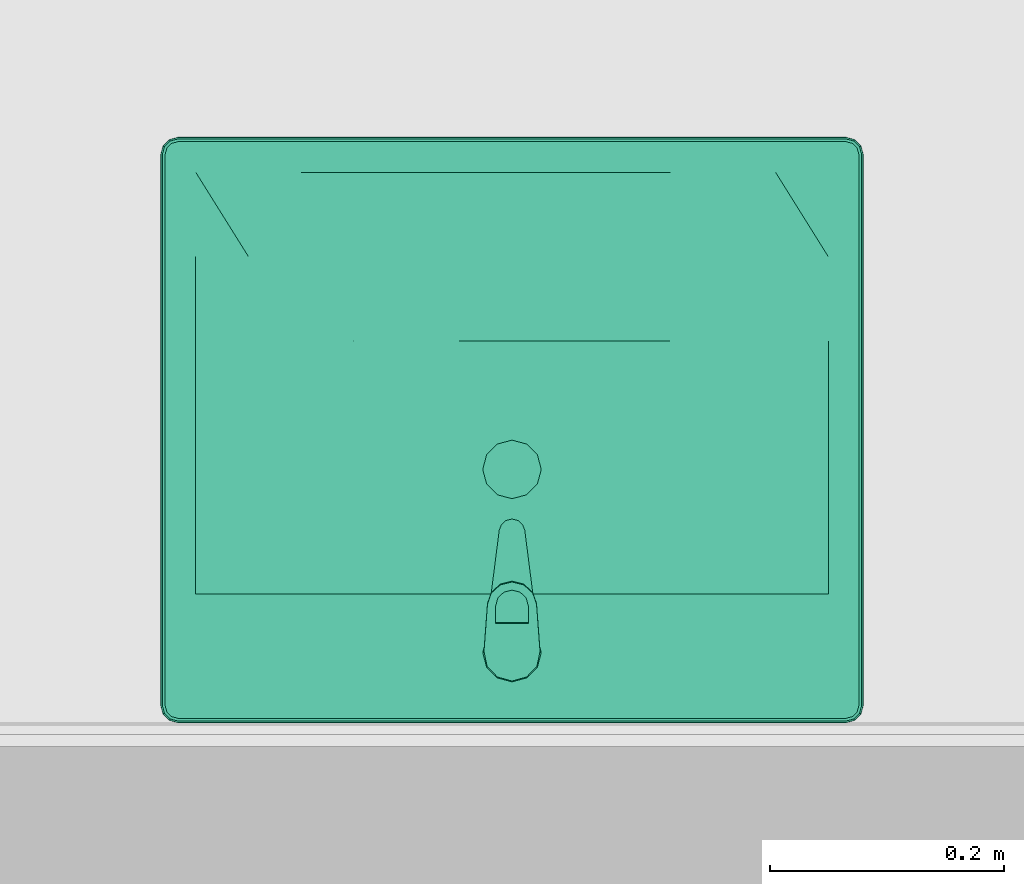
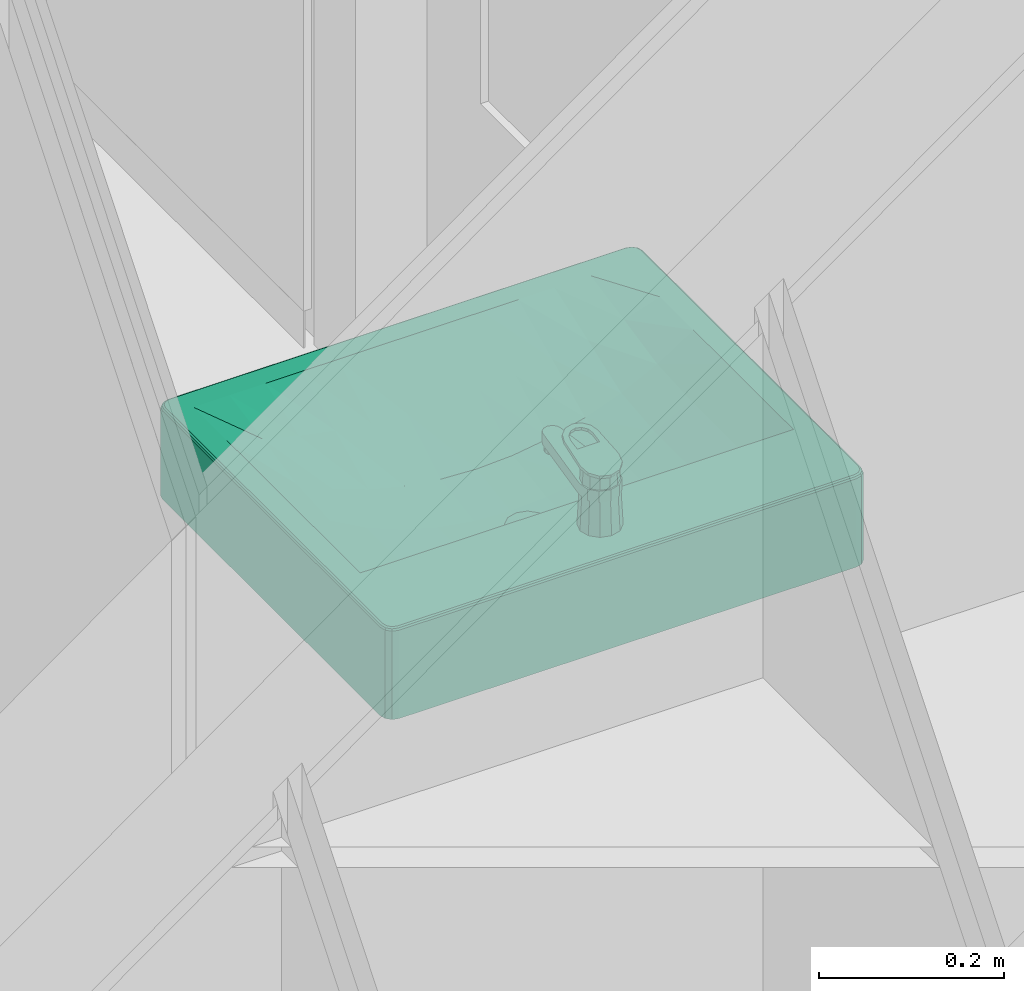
# One storey, part 309 of 347: 1 flow terminal.
"""IFC2X3 building model written with IfcOpenShell, lengths in millimetres."""

from ifc_helpers import new_model, entity, si_unit, converted_unit, derived_unit, money_unit, direction, frame, origin_with_axes, place, context, subcontext, project, spatial, open_shell, faceted_brep, surface_model, type_object, element, save


model = new_model("IFC2X3")

# Units and contexts
model_context = context("Model", 3, precision=0.01, world=origin_with_axes(), true_north=direction((0.0, 1.0)))
plan_context = context("Plan", 3, precision=0.01, world=origin_with_axes(), true_north=direction((0.0, 1.0)))
body_context = subcontext(model_context, "Body", "Model", "MODEL_VIEW")
ifc_project = project(units=[si_unit("LENGTHUNIT", "METRE", prefix="MILLI"), si_unit("AREAUNIT", "SQUARE_METRE"), si_unit("VOLUMEUNIT", "CUBIC_METRE"), converted_unit("PLANEANGLEUNIT", "DEGREE", entity("IfcPlaneAngleMeasure", 0.0174532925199), si_unit("PLANEANGLEUNIT", "RADIAN"), dimensions=[0, 0, 0, 0, 0, 0, 0]), money_unit("EUR"), converted_unit("TIMEUNIT", "Year", entity("IfcTimeMeasure", 31556926.0), si_unit("TIMEUNIT", "SECOND"), dimensions=[0, 0, 1, 0, 0, 0, 0]), si_unit("MASSUNIT", "GRAM", prefix="KILO"), si_unit("THERMODYNAMICTEMPERATUREUNIT", "DEGREE_CELSIUS"), si_unit("LUMINOUSINTENSITYUNIT", "LUMEN"), si_unit("ENERGYUNIT", "JOULE", prefix="MEGA"), derived_unit("THERMALCONDUCTANCEUNIT", [(si_unit("POWERUNIT", "WATT"), 1), (si_unit("LENGTHUNIT", "METRE"), -1), (si_unit("THERMODYNAMICTEMPERATUREUNIT", "KELVIN"), -1)]), derived_unit("SPECIFICHEATCAPACITYUNIT", [(si_unit("ENERGYUNIT", "JOULE"), 1), (si_unit("MASSUNIT", "GRAM", prefix="KILO"), -1), (si_unit("THERMODYNAMICTEMPERATUREUNIT", "KELVIN"), -1)]), derived_unit("MASSDENSITYUNIT", [(si_unit("MASSUNIT", "GRAM", prefix="KILO"), 1), (si_unit("VOLUMEUNIT", "CUBIC_METRE"), -1)])], contexts=[model_context, plan_context])

# Site, building, storey
site_placement = place(None, origin_with_axes())
site = spatial("IfcSite", under=ifc_project, at=site_placement, Name="Site", CompositionType="ELEMENT")
building_placement = place(site_placement, origin_with_axes())
building = spatial("IfcBuilding", under=site, at=building_placement, Name="Naam gebouw", CompositionType="ELEMENT")
storey_placement = place(building_placement, origin_with_axes())
storey = spatial("IfcBuildingStorey", under=building, at=storey_placement, Name="begane grond", CompositionType="ELEMENT", Elevation=0.0)

# Flow terminal
sanitary_terminal_type = type_object("IfcSanitaryTerminalType", Name="Wasbak 25", PredefinedType="WASHHANDBASIN")
flow_terminal_placement = place(storey_placement, frame((6825.0, 12207.5000075, 0.0), z_axis=(0.0, 0.0, 1.0), x_axis=(-1.0, 0.0, 0.0)))
element("IfcFlowTerminal", 1, at=flow_terminal_placement, inside=storey, type_object=sanitary_terminal_type, Name="52_Sanitair wastafel", context=body_context, shape_type="SurfaceModel", body=[
    faceted_brep([(-285.0, -500.0, 780.0), (-292.5, -497.990381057, 780.0), (-297.990381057, -492.5, 780.0), (-300.0, -485.0, 780.0), (-300.0, -15.0, 780.0), (-297.990381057, -7.5, 780.0), (-292.5, -2.00961894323, 780.0), (-285.0, 0.0, 780.0), (285.0, 0.0, 780.0), (292.5, -2.00961894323, 780.0), (297.990381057, -7.5, 780.0), (300.0, -15.0, 780.0), (300.0, -485.0, 780.0), (297.990381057, -492.5, 780.0), (292.5, -497.990381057, 780.0), (285.0, -500.0, 780.0), (270.0, -470.0, 780.0), (270.0, -110.0, 780.0), (-270.0, -110.0, 780.0), (-270.0, -470.0, 780.0), (-284.999999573, -500.00000039, 895.0), (-292.499999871, -497.990381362, 895.0), (-297.990381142, -492.500000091, 895.0), (-300.000000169, -484.999999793, 895.0), (-300.000000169, -15.0000000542, 895.0), (-297.990381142, -7.49999975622, 895.0), (-292.499999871, -2.00961848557, 895.0), (-284.999999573, -3.89516308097e-07, 895.0), (284.999999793, -3.89516308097e-07, 895.0), (292.500000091, -2.00961848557, 895.0), (297.990381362, -7.49999975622, 895.0), (300.00000039, -15.0000000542, 895.0), (300.00000039, -484.999999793, 895.0), (297.990381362, -492.500000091, 895.0), (292.500000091, -497.990381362, 895.0), (284.999999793, -500.00000039, 895.0), (270.0, -110.0, 899.999999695), (270.0, -470.0, 899.999999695), (-270.0, -110.0, 899.999999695), (-270.0, -470.0, 899.999999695), (-284.977569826, -499.829629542, 896.294095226), (-292.411809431, -497.837631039, 896.294095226), (-297.837630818, -492.411809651, 896.294095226), (-299.829629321, -484.977570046, 896.294095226), (-299.829629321, -15.0224298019, 896.294095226), (-297.837630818, -7.58819019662, 896.294095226), (-292.411809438, -2.16236881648, 896.294095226), (-284.977569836, -0.170371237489, 896.294095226), (284.977570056, -0.170371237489, 896.294095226), (292.411809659, -2.16236881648, 896.294095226), (297.837631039, -7.58819019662, 896.294095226), (299.829629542, -15.0224298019, 896.294095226), (299.829629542, -484.977570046, 896.294095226), (297.837631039, -492.411809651, 896.294095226), (292.411809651, -497.837631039, 896.294095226), (284.977570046, -499.829629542, 896.294095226), (284.341737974, -4.99999753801, 899.999999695), (-284.341737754, -4.99999753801, 899.999999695), (-289.911811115, -6.49249350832, 899.999999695), (-293.507506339, -10.0881887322, 899.999999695), (-295.000003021, -15.6582621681, 899.999999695), (-295.000003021, -484.34173768, 899.999999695), (-293.507506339, -489.911811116, 899.999999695), (-289.911810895, -493.507506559, 899.999999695), (-284.341737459, -495.000003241, 899.999999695), (284.34173768, -495.000003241, 899.999999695), (289.911811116, -493.507506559, 899.999999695), (293.507506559, -489.911811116, 899.999999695), (295.000003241, -484.34173768, 899.999999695), (295.000003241, -15.6582621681, 899.999999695), (293.507506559, -10.0881887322, 899.999999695), (289.911811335, -6.49249350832, 899.999999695), (-284.807198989, -498.535534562, 898.535533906), (-291.741936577, -496.677377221, 898.535533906), (-296.677377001, -491.741936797, 898.535533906), (-298.535534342, -484.807199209, 898.535533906), (-298.535534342, -15.1928006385, 898.535533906), (-296.677377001, -8.25806305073, 898.535533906), (-291.741936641, -3.32262269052, 898.535533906), (-284.807199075, -1.46446621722, 898.535533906), (284.807199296, -1.46446621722, 898.535533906), (291.741936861, -3.32262269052, 898.535533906), (296.677377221, -8.25806305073, 898.535533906), (298.535534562, -15.1928006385, 898.535533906), (298.535534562, -484.807199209, 898.535533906), (296.677377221, -491.741936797, 898.535533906), (291.741936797, -496.677377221, 898.535533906), (284.807199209, -498.535534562, 898.535533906), (284.512108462, -3.70590462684, 899.829629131), (-284.512108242, -3.70590462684, 899.829629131), (-290.581682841, -5.33224148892, 899.829629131), (-294.667758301, -9.41831694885, 899.829629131), (-296.294095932, -15.4878916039, 899.829629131), (-296.294095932, -484.512108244, 899.829629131), (-294.667758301, -490.581682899, 899.829629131), (-290.581682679, -494.667758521, 899.829629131), (-284.512108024, -496.294096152, 899.829629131), (284.512108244, -496.294096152, 899.829629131), (290.581682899, -494.667758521, 899.829629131), (294.667758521, -490.581682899, 899.829629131), (296.294096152, -484.512108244, 899.829629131), (296.294096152, -15.4878916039, 899.829629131), (294.667758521, -9.41831694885, 899.829629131), (290.581683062, -5.33224148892, 899.829629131)], [[[0, 1, 2, 3, 4, 5, 6, 7, 8, 9, 10, 11, 12, 13, 14, 15], [16, 17, 18, 19]], [[1, 0, 20, 21]], [[2, 1, 21, 22]], [[3, 2, 22, 23]], [[4, 3, 23, 24]], [[5, 4, 24, 25]], [[6, 5, 25, 26]], [[7, 6, 26, 27]], [[8, 7, 27, 28]], [[9, 8, 28, 29]], [[10, 9, 29, 30]], [[11, 10, 30, 31]], [[12, 11, 31, 32]], [[13, 12, 32, 33]], [[14, 13, 33, 34]], [[15, 14, 34, 35]], [[0, 15, 35, 20]], [[36, 17, 16, 37]], [[38, 18, 17, 36]], [[39, 19, 18, 38]], [[37, 16, 19, 39]], [[21, 20, 40, 41]], [[22, 21, 41, 42]], [[23, 22, 42, 43]], [[24, 23, 43, 44]], [[25, 24, 44, 45]], [[26, 25, 45, 46]], [[27, 26, 46, 47]], [[28, 27, 47, 48]], [[29, 28, 48, 49]], [[30, 29, 49, 50]], [[31, 30, 50, 51]], [[32, 31, 51, 52]], [[33, 32, 52, 53]], [[34, 33, 53, 54]], [[35, 34, 54, 55]], [[20, 35, 55, 40]], [[56, 57, 58, 59, 60, 61, 62, 63, 64, 65, 66, 67, 68, 69, 70, 71], [37, 39, 38, 36]], [[41, 40, 72, 73]], [[42, 41, 73, 74]], [[43, 42, 74, 75]], [[44, 43, 75, 76]], [[45, 44, 76, 77]], [[46, 45, 77, 78]], [[47, 46, 78, 79]], [[48, 47, 79, 80]], [[49, 48, 80, 81]], [[50, 49, 81, 82]], [[51, 50, 82, 83]], [[52, 51, 83, 84]], [[53, 52, 84, 85]], [[54, 53, 85, 86]], [[55, 54, 86, 87]], [[40, 55, 87, 72]], [[88, 89, 57, 56]], [[89, 90, 58, 57]], [[90, 91, 59, 58]], [[91, 92, 60, 59]], [[92, 93, 61, 60]], [[93, 94, 62, 61]], [[94, 95, 63, 62]], [[95, 96, 64, 63]], [[96, 97, 65, 64]], [[97, 98, 66, 65]], [[98, 99, 67, 66]], [[99, 100, 68, 67]], [[100, 101, 69, 68]], [[101, 102, 70, 69]], [[102, 103, 71, 70]], [[103, 88, 56, 71]], [[73, 72, 96, 95]], [[74, 73, 95, 94]], [[75, 74, 94, 93]], [[76, 75, 93, 92]], [[77, 76, 92, 91]], [[78, 77, 91, 90]], [[79, 78, 90, 89]], [[80, 79, 89, 88]], [[81, 80, 88, 103]], [[82, 81, 103, 102]], [[83, 82, 102, 101]], [[84, 83, 101, 100]], [[85, 84, 100, 99]], [[86, 85, 99, 98]], [[87, 86, 98, 97]], [[72, 87, 97, 96]]]),
    faceted_brep([(270.0, -470.0, 780.0), (-270.0, -470.0, 780.0), (-270.0, -110.0, 780.0), (270.0, -110.0, 780.0), (-12.5, -238.003635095, 780.0), (0.0, -241.353, 780.0), (12.5, -238.003635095, 780.0), (21.6506350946, -228.853, 780.0), (25.0, -216.353, 780.0), (21.6506350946, -203.853, 780.0), (12.5, -194.702364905, 780.0), (0.0, -191.353, 780.0), (-12.5, -194.702364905, 780.0), (-21.6506350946, -203.853, 780.0), (-25.0, -216.353, 780.0), (-21.6506350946, -228.853, 780.0), (135.0, -470.0, 900.0), (90.0, -470.0, 900.0), (45.0, -470.0, 900.0), (0.0, -470.0, 900.0), (-45.0, -470.0, 900.0), (-90.0, -470.0, 900.0), (-135.0, -470.0, 900.0), (-180.0, -470.0, 900.0), (-225.0, -470.0, 900.0), (-270.0, -470.0, 900.0), (270.0, -470.0, 900.0), (225.0, -470.0, 900.0), (180.0, -470.0, 900.0), (-270.0, -254.0, 900.0), (-270.0, -182.0, 900.0), (-270.0, -110.0, 900.0), (-270.0, -398.0, 900.0), (-270.0, -326.0, 900.0), (-135.0, -110.0, 822.600459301), (-90.0, -110.0, 809.888766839), (-45.0, -110.0, 802.449942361), (0.0, -110.0, 800.0), (45.0, -110.0, 802.449942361), (90.0, -110.0, 809.888766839), (135.0, -110.0, 822.600459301), (180.0, -110.0, 841.123179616), (225.0, -110.0, 866.383281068), (270.0, -110.0, 900.0), (-225.0, -110.0, 866.383281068), (-180.0, -110.0, 841.123179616), (270.0, -326.0, 900.0), (270.0, -398.0, 900.0), (270.0, -182.0, 900.0), (270.0, -254.0, 900.0), (0.0, -241.353, 800.0), (-12.5, -238.003635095, 800.680539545), (12.5, -238.003635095, 800.680539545), (21.6506350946, -228.853, 801.178729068), (25.0, -216.353, 801.36107909), (21.6506350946, -203.853, 801.178729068), (12.5, -194.702364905, 800.680539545), (0.0, -191.353, 800.0), (-12.5, -194.702364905, 800.680539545), (-21.6506350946, -203.853, 801.178729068), (-25.0, -216.353, 801.36107909), (-21.6506350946, -228.853, 801.178729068), (90.0, -398.0, 859.698966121), (45.0, -398.0, 856.021333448), (0.0, -398.0, 854.799081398), (-45.0, -398.0, 856.021333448), (-90.0, -398.0, 859.698966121), (-135.0, -398.0, 865.865098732), (-180.0, -398.0, 874.576615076), (-225.0, -398.0, 885.916884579), (225.0, -398.0, 885.916884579), (180.0, -398.0, 874.576615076), (135.0, -398.0, 865.865098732), (-225.0, -254.0, 866.383281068), (-225.0, -182.0, 866.383281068), (-225.0, -326.0, 870.843379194), (-135.0, -182.0, 822.600459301), (-90.0, -182.0, 809.888766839), (-45.0, -182.0, 802.449942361), (0.0, -182.0, 800.0), (45.0, -182.0, 802.449942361), (90.0, -182.0, 809.888766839), (135.0, -182.0, 822.600459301), (180.0, -182.0, 841.123179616), (225.0, -182.0, 866.383281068), (-180.0, -182.0, 841.123179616), (225.0, -326.0, 870.843379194), (225.0, -254.0, 866.383281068), (-45.0, -254.0, 802.449942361), (0.0, -254.0, 800.0), (45.0, -254.0, 802.449942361), (-180.0, -254.0, 841.123179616), (-135.0, -254.0, 822.600459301), (-90.0, -254.0, 809.888766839), (90.0, -254.0, 809.888766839), (135.0, -254.0, 822.600459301), (180.0, -254.0, 841.123179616), (0.0, -326.0, 811.460400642), (45.0, -326.0, 813.686473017), (90.0, -326.0, 820.431203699), (-45.0, -326.0, 813.686473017), (-90.0, -326.0, 820.431203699), (-135.0, -326.0, 831.904485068), (-180.0, -326.0, 848.49465434), (180.0, -326.0, 848.49465434), (135.0, -326.0, 831.904485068)], [[[0, 1, 2, 3], [4, 5, 6, 7, 8, 9, 10, 11, 12, 13, 14, 15]], [[16, 17, 18, 19, 20, 21, 22, 23, 24, 25, 1, 0, 26, 27, 28]], [[29, 30, 31, 2, 1, 25, 32, 33]], [[34, 35, 36, 37, 38, 39, 40, 41, 42, 43, 3, 2, 31, 44, 45]], [[46, 47, 26, 0, 3, 43, 48, 49]], [[50, 5, 4, 51]], [[52, 6, 5, 50]], [[53, 7, 6, 52]], [[54, 8, 7, 53]], [[55, 9, 8, 54]], [[56, 10, 9, 55]], [[57, 11, 10, 56]], [[58, 12, 11, 57]], [[59, 13, 12, 58]], [[60, 14, 13, 59]], [[61, 15, 14, 60]], [[51, 4, 15, 61]], [[16, 62, 17]], [[17, 63, 18]], [[18, 64, 19]], [[19, 65, 20]], [[20, 66, 21]], [[21, 67, 22]], [[22, 68, 23]], [[23, 69, 24]], [[24, 32, 25]], [[26, 70, 27]], [[27, 71, 28]], [[28, 72, 16]], [[29, 73, 74, 30]], [[30, 74, 44, 31]], [[69, 33, 32]], [[75, 29, 33]], [[76, 77, 35, 34]], [[77, 78, 36, 35]], [[78, 79, 37, 36]], [[79, 80, 38, 37]], [[80, 81, 39, 38]], [[81, 82, 40, 39]], [[82, 83, 41, 40]], [[83, 84, 42, 41]], [[84, 48, 43, 42]], [[74, 85, 45, 44]], [[85, 76, 34, 45]], [[47, 46, 86]], [[26, 47, 70]], [[87, 49, 48, 84]], [[46, 49, 87]], [[58, 57, 79, 78, 88, 89, 50, 51, 61, 60, 59]], [[56, 55, 54, 53, 52, 50, 89, 90, 80, 79, 57]], [[16, 72, 62]], [[17, 62, 63]], [[18, 63, 64]], [[19, 64, 65]], [[20, 65, 66]], [[21, 66, 67]], [[22, 67, 68]], [[23, 68, 69]], [[24, 69, 32]], [[27, 70, 71]], [[28, 71, 72]], [[75, 73, 29]], [[73, 91, 85, 74]], [[69, 75, 33]], [[92, 93, 77, 76]], [[93, 88, 78, 77]], [[90, 94, 81, 80]], [[94, 95, 82, 81]], [[95, 96, 83, 82]], [[96, 87, 84, 83]], [[91, 92, 76, 85]], [[46, 87, 86]], [[47, 86, 70]], [[97, 89, 88]], [[98, 90, 89]], [[72, 99, 62]], [[62, 98, 63]], [[63, 97, 64]], [[64, 100, 65]], [[65, 101, 66]], [[66, 102, 67]], [[67, 103, 68]], [[68, 75, 69]], [[70, 104, 71]], [[71, 105, 72]], [[103, 73, 75]], [[103, 91, 73]], [[101, 93, 92]], [[100, 88, 93]], [[99, 94, 90]], [[105, 95, 94]], [[104, 96, 95]], [[86, 87, 96]], [[102, 92, 91]], [[70, 86, 104]], [[98, 89, 97]], [[97, 88, 100]], [[99, 90, 98]], [[72, 105, 99]], [[62, 99, 98]], [[63, 98, 97]], [[64, 97, 100]], [[65, 100, 101]], [[66, 101, 102]], [[67, 102, 103]], [[68, 103, 75]], [[71, 104, 105]], [[102, 91, 103]], [[100, 93, 101]], [[101, 92, 102]], [[105, 94, 99]], [[104, 95, 105]], [[86, 96, 104]]]),
    faceted_brep([(-21.6506350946, -228.853, 800.0), (-25.0, -216.353, 800.0), (-21.6506350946, -203.853, 800.0), (-12.5, -194.702364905, 800.0), (0.0, -191.353, 800.0), (12.5, -194.702364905, 800.0), (21.6506350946, -203.853, 800.0), (25.0, -216.353, 800.0), (21.6506350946, -228.853, 800.0), (12.5, -238.003635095, 800.0), (0.0, -241.353, 800.0), (-12.5, -238.003635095, 800.0), (-21.6506350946, -228.853, 805.0), (-25.0, -216.353, 805.0), (-21.6506350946, -203.853, 805.0), (-12.5, -194.702364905, 805.0), (0.0, -191.353, 805.0), (12.5, -194.702364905, 805.0), (21.6506350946, -203.853, 805.0), (25.0, -216.353, 805.0), (21.6506350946, -228.853, 805.0), (12.5, -238.003635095, 805.0), (0.0, -241.353, 805.0), (-12.5, -238.003635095, 805.0)], [[[0, 1, 2, 3, 4, 5, 6, 7, 8, 9, 10, 11]], [[0, 12, 13, 1]], [[1, 13, 14, 2]], [[2, 14, 15, 3]], [[3, 15, 16, 4]], [[4, 16, 17, 5]], [[5, 17, 18, 6]], [[6, 18, 19, 7]], [[7, 19, 20, 8]], [[8, 20, 21, 9]], [[9, 21, 22, 10]], [[10, 22, 23, 11]], [[11, 23, 12, 0]], [[12, 23, 22, 21, 20, 19, 18, 17, 16, 15, 14, 13]]]),
    surface_model("IfcShellBasedSurfaceModel", [(0.0, -216.353, 807.0), (6.31095278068, -205.42210914, 806.49757372), (0.0, -203.731094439, 806.49757372), (10.9308908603, -210.042047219, 806.49757372), (12.5, -194.702364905, 805.0), (0.0, -191.353, 805.0), (-6.31095278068, -205.42210914, 806.49757372), (12.6219055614, -216.353, 806.49757372), (21.6506350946, -203.853, 805.0), (-12.5, -194.702364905, 805.0), (-10.9308908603, -210.042047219, 806.49757372), (10.9308908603, -222.663952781, 806.49757372), (25.0, -216.353, 805.0), (-21.6506350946, -203.853, 805.0), (-12.6219055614, -216.353, 806.49757372), (6.31095278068, -227.28389086, 806.49757372), (21.6506350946, -228.853, 805.0), (-25.0, -216.353, 805.0), (-10.9308908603, -222.663952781, 806.49757372), (0.0, -228.974905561, 806.49757372), (12.5, -238.003635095, 805.0), (-21.6506350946, -228.853, 805.0), (-6.31095278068, -227.28389086, 806.49757372), (0.0, -241.353, 805.0), (-12.5, -238.003635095, 805.0)], [open_shell([[[0, 1, 2]], [[0, 3, 1]], [[1, 4, 5, 2]], [[0, 2, 6]], [[0, 7, 3]], [[3, 8, 4, 1]], [[2, 5, 9, 6]], [[0, 6, 10]], [[0, 11, 7]], [[7, 12, 8, 3]], [[6, 9, 13, 10]], [[0, 10, 14]], [[0, 15, 11]], [[11, 16, 12, 7]], [[10, 13, 17, 14]], [[0, 14, 18]], [[0, 19, 15]], [[15, 20, 16, 11]], [[14, 17, 21, 18]], [[0, 18, 22]], [[0, 22, 19]], [[19, 23, 20, 15]], [[18, 21, 24, 22]], [[22, 24, 23, 19]]])]),
    faceted_brep([(-12.5, -38.3493649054, 900.0), (-10.5873227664, -41.6622190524, 976.507089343), (0.0, -38.7980769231, 975.961538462), (0.0, -35.0, 900.0), (-21.6506350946, -47.5, 900.0), (-18.2735503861, -49.4497607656, 977.990430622), (-21.0, -60.0, 980.0), (-18.1003413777, -70.4502369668, 981.990521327), (-10.4141059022, -78.037760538, 983.435763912), (0.0, -80.8018867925, 983.962264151), (10.4141059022, -78.037760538, 983.435763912), (18.1003413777, -70.4502369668, 981.990521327), (21.0, -60.0, 980.0), (18.2735503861, -49.4497607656, 977.990430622), (10.5873227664, -41.6622190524, 976.507089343), (12.5, -38.3493649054, 900.0), (21.6506350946, -47.5, 900.0), (25.0, -60.0, 900.0), (21.6506350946, -72.5, 900.0), (12.5, -81.6506350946, 900.0), (0.0, -85.0, 900.0), (-12.5, -81.6506350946, 900.0), (-21.6506350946, -72.5, 900.0), (-25.0, -60.0, 900.0)], [[[0, 1, 2, 3]], [[4, 5, 1, 0]], [[1, 5, 6, 7, 8, 9, 10, 11, 12, 13, 14, 2]], [[3, 2, 14, 15]], [[0, 3, 15, 16, 17, 18, 19, 20, 21, 22, 23, 4]], [[23, 6, 5, 4]], [[22, 7, 6, 23]], [[21, 8, 7, 22]], [[20, 9, 8, 21]], [[19, 10, 9, 20]], [[18, 11, 10, 19]], [[17, 12, 11, 18]], [[16, 13, 12, 17]], [[15, 14, 13, 16]]]),
    faceted_brep([(-9.0, -163.0, 935.0), (-9.0, -163.0, 945.0), (-7.79422863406, -158.5, 945.0), (-7.79422863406, -158.5, 935.0), (-7.79422863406, -167.5, 935.0), (-7.79422863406, -167.5, 945.0), (-4.5, -170.794228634, 945.0), (0.0, -172.0, 945.0), (4.5, -170.794228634, 945.0), (7.79422863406, -167.5, 945.0), (9.0, -163.0, 945.0), (7.79422863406, -158.5, 945.0), (4.5, -155.205771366, 945.0), (0.0, -154.0, 945.0), (-4.5, -155.205771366, 945.0), (-4.5, -155.205771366, 935.0), (0.0, -154.0, 935.0), (4.5, -155.205771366, 935.0), (7.79422863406, -158.5, 935.0), (9.0, -163.0, 935.0), (7.79422863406, -167.5, 935.0), (4.5, -170.794228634, 935.0), (0.0, -172.0, 935.0), (-4.5, -170.794228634, 935.0)], [[[0, 1, 2, 3]], [[4, 5, 1, 0]], [[1, 5, 6, 7, 8, 9, 10, 11, 12, 13, 14, 2]], [[3, 2, 14, 15]], [[0, 3, 15, 16, 17, 18, 19, 20, 21, 22, 23, 4]], [[23, 6, 5, 4]], [[22, 7, 6, 23]], [[21, 8, 7, 22]], [[20, 9, 8, 21]], [[19, 10, 9, 20]], [[18, 11, 10, 19]], [[17, 12, 11, 18]], [[16, 13, 12, 17]], [[15, 14, 13, 16]]]),
    faceted_brep([(12.8717176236, -39.7436961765, 960.0), (-1.01998896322e-06, -36.000021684, 960.0), (-12.8717193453, -39.7436972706, 960.0), (-21.7278061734, -49.806796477, 960.0), (-23.8053997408, -63.0499020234, 960.0), (-10.912, -164.3883, 960.0), (-9.02891689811, -169.283134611, 960.0), (-5.09338878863, -172.749692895, 960.0), (-3.62679860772e-05, -173.99996004, 960.0), (5.09332449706, -172.749726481, 960.0), (9.02887546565, -169.283194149, 960.0), (10.911990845, -164.388371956, 960.0), (23.8054, -63.0499, 960.0), (21.727805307, -49.8067946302, 960.0), (-11.0, -40.9474411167, 960.0), (0.0, -38.0, 960.0), (11.0, -40.9474411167, 960.0), (19.0525588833, -49.0, 960.0), (22.0, -60.0, 960.0), (19.0525588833, -71.0, 960.0), (11.0, -79.0525588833, 960.0), (0.0, -82.0, 960.0), (-11.0, -79.0525588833, 960.0), (-19.0525588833, -71.0, 960.0), (-22.0, -60.0, 960.0), (-19.0525588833, -49.0, 960.0), (12.8717176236, -39.7436961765, 945.0), (-1.01998896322e-06, -36.000021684, 945.0), (-12.8717193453, -39.7436972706, 945.0), (-21.7278061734, -49.806796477, 945.0), (-23.8053997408, -63.0499020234, 945.0), (-10.912, -164.3883, 945.0), (-9.02891689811, -169.283134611, 945.0), (-5.09338878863, -172.749692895, 945.0), (-3.62679860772e-05, -173.99996004, 945.0), (5.09332449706, -172.749726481, 945.0), (9.02887546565, -169.283194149, 945.0), (10.911990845, -164.388371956, 945.0), (23.8054, -63.0499, 945.0), (21.727805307, -49.8067946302, 945.0), (0.0, -37.25, 945.0), (-11.375, -40.2979220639, 945.0), (11.375, -40.2979220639, 945.0), (19.7020779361, -48.625, 945.0), (22.75, -60.0, 945.0), (19.7020779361, -71.375, 945.0), (11.375, -79.7020779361, 945.0), (0.0, -82.75, 945.0), (-11.375, -79.7020779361, 945.0), (-19.7020779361, -71.375, 945.0), (-22.75, -60.0, 945.0), (-19.7020779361, -48.625, 945.0)], [[[0, 1, 2, 3, 4, 5, 6, 7, 8, 9, 10, 11, 12, 13], [14, 15, 16, 17, 18, 19, 20, 21, 22, 23, 24, 25]], [[26, 27, 1, 0]], [[27, 28, 2, 1]], [[28, 29, 3, 2]], [[29, 30, 4, 3]], [[30, 31, 5, 4]], [[31, 32, 6, 5]], [[32, 33, 7, 6]], [[33, 34, 8, 7]], [[34, 35, 9, 8]], [[35, 36, 10, 9]], [[36, 37, 11, 10]], [[37, 38, 12, 11]], [[38, 39, 13, 12]], [[39, 26, 0, 13]], [[40, 15, 14, 41]], [[42, 16, 15, 40]], [[16, 42, 43, 17]], [[17, 43, 44, 18]], [[18, 44, 45, 19]], [[19, 45, 46, 20]], [[20, 46, 47, 21]], [[48, 22, 21, 47]], [[49, 23, 22, 48]], [[50, 24, 23, 49]], [[51, 25, 24, 50]], [[41, 14, 25, 51]], [[34, 33, 32, 31, 30, 29, 28, 27, 26, 39, 38, 37, 36, 35], [48, 47, 46, 45, 44, 43, 42, 40, 41, 51, 50, 49]]]),
    faceted_brep([(-23.893, -61.6925693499, 980.322394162), (-23.893, -60.9441209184, 984.251748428), (-21.2964214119, -48.4768327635, 981.877026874), (-21.2964214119, -49.225281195, 977.947672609), (-20.9459364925, -101.836702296, 987.968895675), (-20.9459364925, -101.088253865, 991.898249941), (-17.6631391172, -110.76591808, 993.741614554), (-10.0614352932, -117.71529766, 995.065305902), (0.000442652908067, -120.237163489, 995.545661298), (10.0622123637, -117.714880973, 995.065226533), (17.6636179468, -110.765186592, 993.741475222), (20.946, -101.087386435, 991.898084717), (23.893020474, -60.9438419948, 984.251695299), (21.2962910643, -48.4765841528, 981.87697952), (12.4716815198, -39.1603541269, 980.102459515), (-0.000142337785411, -35.7195870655, 979.447075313), (-12.4719245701, -39.1604997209, 980.102487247), (-14.0, -84.7923542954, 988.794269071), (14.0, -84.7923542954, 988.794269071), (14.0, -99.6079845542, 991.616293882), (12.124355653, -106.484354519, 992.926078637), (7.0, -111.518206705, 993.884907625), (0.0, -113.360724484, 994.235863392), (-7.0, -111.518206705, 993.884907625), (-12.124355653, -106.484354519, 992.926078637), (-14.0, -99.6079845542, 991.616293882), (-12.4719245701, -39.9089481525, 976.173132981), (-0.000142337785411, -36.4680354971, 975.517721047), (12.4716815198, -39.9088025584, 976.173105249), (21.2962910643, -49.2250325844, 977.947625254), (23.893020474, -61.6922904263, 980.322341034), (20.946, -101.835834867, 987.968730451), (17.6636179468, -111.513635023, 989.812120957), (10.0622123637, -118.463329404, 991.135872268), (0.000442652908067, -120.98561192, 991.616307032), (-10.0614352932, -118.463746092, 991.135951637), (-17.6631391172, -111.514366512, 989.812260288), (-14.0, -85.540802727, 984.864914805), (-14.0, -100.356432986, 987.686939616), (-12.124355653, -107.232802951, 988.996724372), (-7.0, -112.266655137, 989.955553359), (0.0, -114.109172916, 990.306509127), (7.0, -112.266655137, 989.955553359), (12.124355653, -107.232802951, 988.996724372), (14.0, -100.356432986, 987.686939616), (14.0, -85.540802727, 984.864914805)], [[[0, 1, 2, 3]], [[4, 5, 1, 0]], [[1, 5, 6, 7, 8, 9, 10, 11, 12, 13, 14, 15, 16, 2], [17, 18, 19, 20, 21, 22, 23, 24, 25]], [[3, 2, 16, 26]], [[0, 3, 26, 27, 28, 29, 30, 31, 32, 33, 34, 35, 36, 4], [37, 38, 39, 40, 41, 42, 43, 44, 45]], [[36, 6, 5, 4]], [[35, 7, 6, 36]], [[34, 8, 7, 35]], [[33, 9, 8, 34]], [[32, 10, 9, 33]], [[31, 11, 10, 32]], [[30, 12, 11, 31]], [[29, 13, 12, 30]], [[28, 14, 13, 29]], [[27, 15, 14, 28]], [[26, 16, 15, 27]], [[45, 18, 17, 37]], [[44, 19, 18, 45]], [[43, 20, 19, 44]], [[42, 21, 20, 43]], [[41, 22, 21, 42]], [[40, 23, 22, 41]], [[39, 24, 23, 40]], [[38, 25, 24, 39]], [[37, 17, 25, 38]]]),
    surface_model("IfcShellBasedSurfaceModel", [(0.0, -237.353, 780.0), (0.0, -237.353, 760.0), (5.43519994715, -236.637442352, 760.0), (5.43519994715, -236.637442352, 780.0), (-5.43519994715, -236.637442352, 780.0), (-5.43519994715, -236.637442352, 760.0), (10.5, -234.539533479, 760.0), (10.5, -234.539533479, 780.0), (-10.5, -234.539533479, 780.0), (-10.5, -234.539533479, 760.0), (14.8492424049, -231.202242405, 760.0), (14.8492424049, -231.202242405, 780.0), (-14.8492424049, -231.202242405, 780.0), (-14.8492424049, -231.202242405, 760.0), (18.1865334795, -226.853, 760.0), (18.1865334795, -226.853, 780.0), (-18.1865334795, -226.853, 780.0), (-18.1865334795, -226.853, 760.0), (20.2844423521, -221.788199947, 760.0), (20.2844423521, -221.788199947, 780.0), (-20.2844423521, -221.788199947, 780.0), (-20.2844423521, -221.788199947, 760.0), (21.0, -216.353, 760.0), (21.0, -216.353, 780.0), (-21.0, -216.353, 780.0), (-21.0, -216.353, 760.0), (20.2844423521, -210.917800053, 760.0), (20.2844423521, -210.917800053, 780.0), (-20.2844423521, -210.917800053, 780.0), (-20.2844423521, -210.917800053, 760.0), (18.1865334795, -205.853, 760.0), (18.1865334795, -205.853, 780.0), (-18.1865334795, -205.853, 780.0), (-18.1865334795, -205.853, 760.0), (14.8492424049, -201.503757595, 760.0), (14.8492424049, -201.503757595, 780.0), (-14.8492424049, -201.503757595, 780.0), (-14.8492424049, -201.503757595, 760.0), (10.5, -198.166466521, 760.0), (10.5, -198.166466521, 780.0), (-10.5, -198.166466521, 780.0), (-10.5, -198.166466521, 760.0), (5.43519994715, -196.068557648, 760.0), (5.43519994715, -196.068557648, 780.0), (-5.43519994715, -196.068557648, 780.0), (-5.43519994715, -196.068557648, 760.0), (0.0, -195.353, 760.0), (0.0, -195.353, 780.0)], [open_shell([[[0, 1, 2, 3]], [[4, 5, 1, 0]], [[3, 2, 6, 7]], [[8, 9, 5, 4]], [[7, 6, 10, 11]], [[12, 13, 9, 8]], [[11, 10, 14, 15]], [[16, 17, 13, 12]], [[15, 14, 18, 19]], [[20, 21, 17, 16]], [[19, 18, 22, 23]], [[24, 25, 21, 20]], [[23, 22, 26, 27]], [[28, 29, 25, 24]], [[27, 26, 30, 31]], [[32, 33, 29, 28]], [[31, 30, 34, 35]], [[36, 37, 33, 32]], [[35, 34, 38, 39]], [[40, 41, 37, 36]], [[39, 38, 42, 43]], [[44, 45, 41, 40]], [[43, 42, 46, 47]], [[47, 46, 45, 44]]])]),
])

save(model, "model.ifc")
